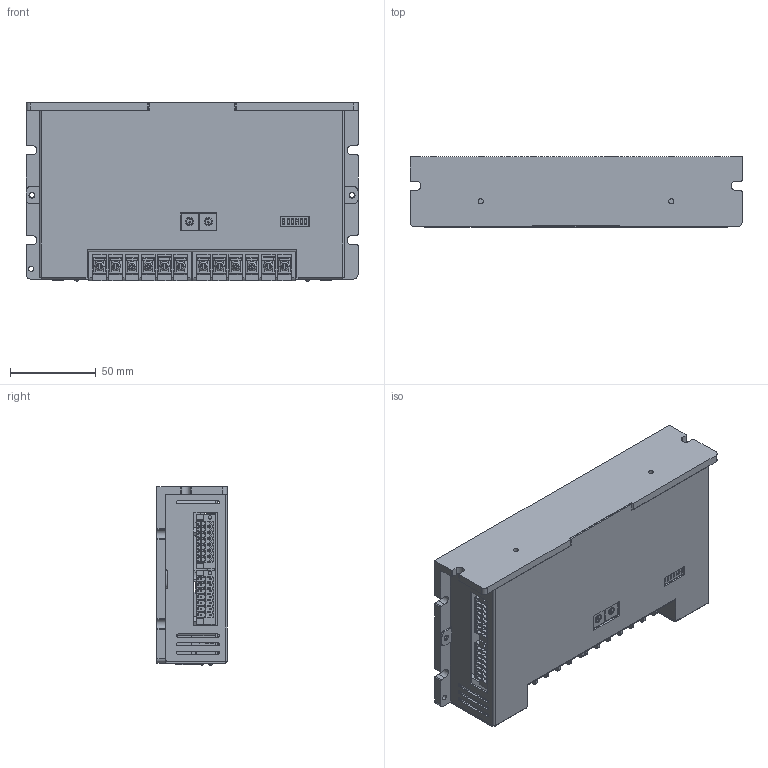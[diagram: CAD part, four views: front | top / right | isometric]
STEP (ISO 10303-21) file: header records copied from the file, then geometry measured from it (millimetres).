
FILE_DESCRIPTION((''),'2;1');
FILE_NAME('2LD2-7030','2021-12-10T16:16:07',('chensf'),(''),'CREO PARAMETRIC BY PTC INC, 2019010','CREO PARAMETRIC BY PTC INC, 2019010','');
FILE_SCHEMA(('CONFIG_CONTROL_DESIGN','GEOMETRIC_VALIDATION_PROPERTIES_MIM'));
Products named in the file (1): 2LD2-7030
Bounding box: 194 x 41 x 104.3 mm (x, y, z)
Surface area: 220830.8 mm2 (no closed solid volume)
Topology: 0 solids, 53 shells, 5828 faces, 15288 edges, 9877 vertices
Faces by surface type: plane 4637, cylinder 983, cone 96, torus 76, sphere 16, extrusion 16, bspline 4
Entity records: 218247 total; most frequent: CARTESIAN_POINT 34454, ORIENTED_EDGE 30544, DIRECTION 28525, EDGE_CURVE 15272, VECTOR 12933, LINE 12917, VERTEX_POINT 9877, AXIS2_PLACEMENT_3D 7796
